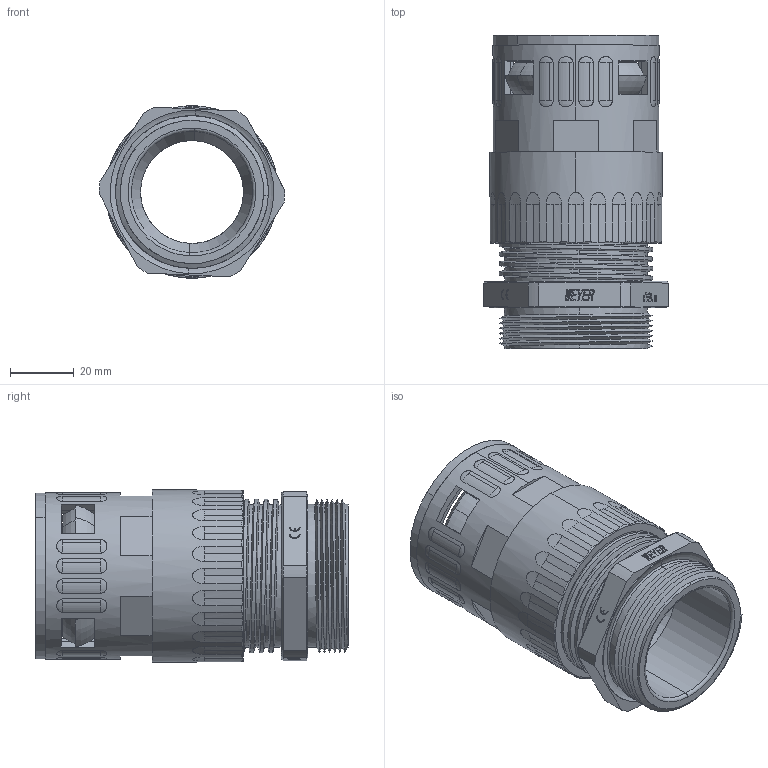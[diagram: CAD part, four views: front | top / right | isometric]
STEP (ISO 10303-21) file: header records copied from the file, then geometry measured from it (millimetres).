
FILE_DESCRIPTION (( 'STEP AP203' ), '1' );
FILE_NAME ('WQGZ-P36-AD42.5.STEP', '2021-04-12T02:26:36', ( '' ), ( '' ), 'SwSTEP 2.0', 'SolidWorks 2016', '' );
FILE_SCHEMA (( 'CONFIG_CONTROL_DESIGN' ));
Length unit declared in the file: millimetre
Products named in the file (8): WQGZ-P36-AD42.5; GFD-AD42.5; HSK-P36-01; WQG2-Tr28-AD42.5; 蚾饜极1; CTH-P36; NSK-AD42.5
Assembly tree (7 placements, depth 3):
  WQGZ-P36-AD42.5
    WQG2-Tr28-AD42.5
      WQG2-Tr28-AD42.5
      GFD-AD42.5
      NSK-AD42.5
    蚾饜极1
      HSK-P36-01
      CTH-P36
Bounding box: 57.99 x 98 x 54 mm (x, y, z)
Volume: 84536 mm3; surface area: 61477.5 mm2
Topology: 5 solids, 5 shells, 757 faces, 2058 edges, 1295 vertices
Faces by surface type: plane 343, cylinder 160, cone 90, torus 60, sphere 56, bspline 48
Entity records: 30578 total; most frequent: CARTESIAN_POINT 11572, ORIENTED_EDGE 3940, DIRECTION 3623, EDGE_CURVE 1970, AXIS2_PLACEMENT_3D 1321, VERTEX_POINT 1263, LINE 981, VECTOR 981
